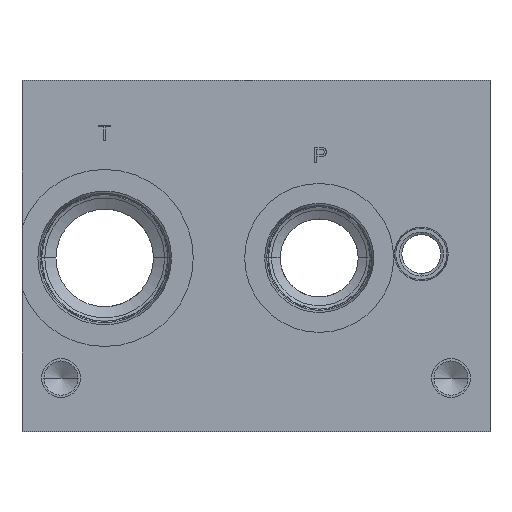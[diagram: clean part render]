
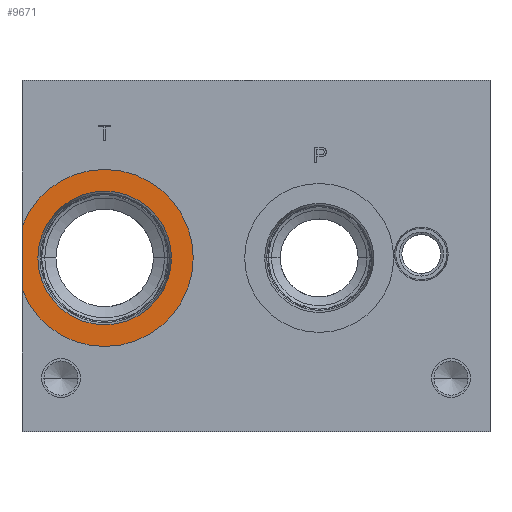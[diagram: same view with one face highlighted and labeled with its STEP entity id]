
A CAD part, left-side view. The second image highlights one B-rep face of the part: STEP entity #9671.
In plain terms, the highlighted planar face has unit normal (-1, 0, 0).
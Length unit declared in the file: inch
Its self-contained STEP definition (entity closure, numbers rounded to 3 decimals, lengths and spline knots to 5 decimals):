
#119 = CARTESIAN_POINT ( 'NONE',  ( 0.031, 0., -2.68074 ) ) ;
#734 = FACE_OUTER_BOUND ( 'NONE', #6640, .T. ) ;
#865 = DIRECTION ( 'NONE',  ( 1., 0., 0. ) ) ;
#990 = AXIS2_PLACEMENT_3D ( 'NONE', #13040, #865, #11270 ) ;
#1805 = ORIENTED_EDGE ( 'NONE', *, *, #15562, .T. ) ;
#1905 = CARTESIAN_POINT ( 'NONE',  ( 0.031, 0.075, -2.275 ) ) ;
#1942 = CIRCLE ( 'NONE', #990, 1.135 ) ;
#2789 = AXIS2_PLACEMENT_3D ( 'NONE', #7322, #4329, #17730 ) ;
#3103 = AXIS2_PLACEMENT_3D ( 'NONE', #1905, #9606, #6666 ) ;
#4220 = CARTESIAN_POINT ( 'NONE',  ( 0.031, -0.2035, -2.275 ) ) ;
#4329 = DIRECTION ( 'NONE',  ( 1., 0., 0. ) ) ;
#4742 = VERTEX_POINT ( 'NONE', #119 ) ;
#4887 = DIRECTION ( 'NONE',  ( 0., 1., 0. ) ) ;
#4915 = PLANE ( 'NONE',  #3103 ) ;
#4957 = AXIS2_PLACEMENT_3D ( 'NONE', #12019, #15025, #4887 ) ;
#5484 = EDGE_CURVE ( 'NONE', #10575, #4742, #1942, .T. ) ;
#5597 = DIRECTION ( 'NONE',  ( 0., 0., -1. ) ) ;
#6640 = EDGE_LOOP ( 'NONE', ( #1805, #9852 ) ) ;
#6666 = DIRECTION ( 'NONE',  ( 0., 1., 0. ) ) ;
#6802 = ORIENTED_EDGE ( 'NONE', *, *, #17817, .T. ) ;
#7322 = CARTESIAN_POINT ( 'NONE',  ( 0.031, -1.06, -2.275 ) ) ;
#7757 = CARTESIAN_POINT ( 'NONE',  ( 0.031, 0., -1.86926 ) ) ;
#8447 = CARTESIAN_POINT ( 'NONE',  ( 0.031, 0., -4.5 ) ) ;
#9606 = DIRECTION ( 'NONE',  ( 1., 0., 0. ) ) ;
#9671 = ADVANCED_FACE ( 'NONE', ( #734, #16084 ), #4915, .F. ) ;
#9852 = ORIENTED_EDGE ( 'NONE', *, *, #5484, .F. ) ;
#10575 = VERTEX_POINT ( 'NONE', #7757 ) ;
#10583 = CARTESIAN_POINT ( 'NONE',  ( 0.031, -1.9165, -2.275 ) ) ;
#10771 = VERTEX_POINT ( 'NONE', #4220 ) ;
#11270 = DIRECTION ( 'NONE',  ( 0., 1., 0. ) ) ;
#12019 = CARTESIAN_POINT ( 'NONE',  ( 0.031, -1.06, -2.275 ) ) ;
#12491 = VERTEX_POINT ( 'NONE', #10583 ) ;
#13040 = CARTESIAN_POINT ( 'NONE',  ( 0.031, -1.06, -2.275 ) ) ;
#13625 = CIRCLE ( 'NONE', #2789, 0.8565 ) ;
#13746 = EDGE_CURVE ( 'NONE', #10771, #12491, #18974, .T. ) ;
#14450 = EDGE_LOOP ( 'NONE', ( #6802, #15015 ) ) ;
#15015 = ORIENTED_EDGE ( 'NONE', *, *, #13746, .T. ) ;
#15025 = DIRECTION ( 'NONE',  ( 1., 0., 0. ) ) ;
#15215 = LINE ( 'NONE', #8447, #18738 ) ;
#15562 = EDGE_CURVE ( 'NONE', #10575, #4742, #15215, .T. ) ;
#16084 = FACE_BOUND ( 'NONE', #14450, .T. ) ;
#17730 = DIRECTION ( 'NONE',  ( 0., 1., 0. ) ) ;
#17817 = EDGE_CURVE ( 'NONE', #12491, #10771, #13625, .T. ) ;
#18738 = VECTOR ( 'NONE', #5597, 39.37008 ) ;
#18974 = CIRCLE ( 'NONE', #4957, 0.8565 ) ;
